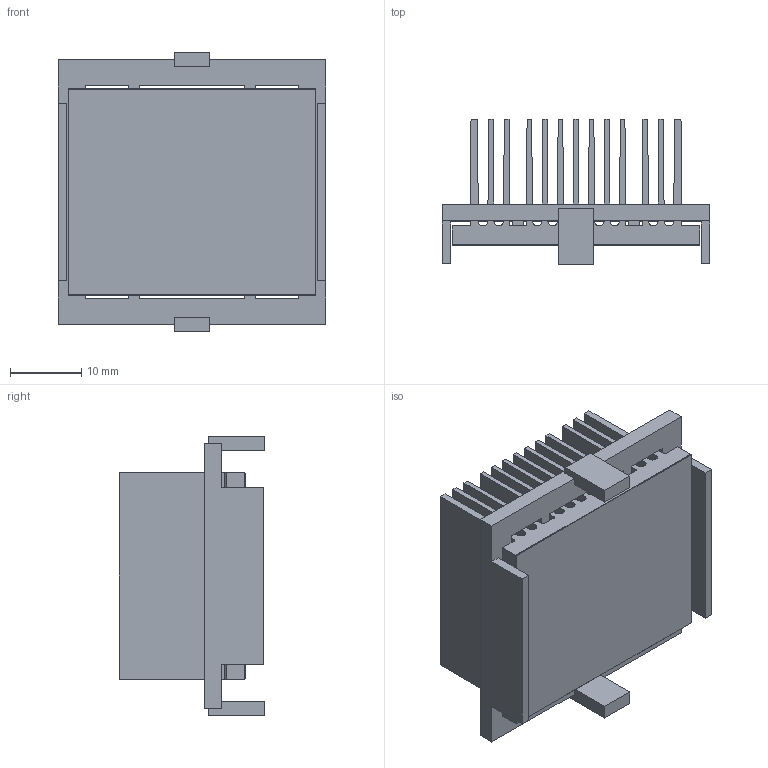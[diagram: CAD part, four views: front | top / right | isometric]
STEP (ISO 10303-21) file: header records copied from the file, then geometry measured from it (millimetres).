
FILE_DESCRIPTION (( 'STEP AP214' ), '1' );
FILE_NAME ('INH35001-18-2.6K29.STEP', '2023-02-17T22:47:39', ( '' ), ( '' ), 'SwSTEP 2.0', 'SolidWorks 2020', '' );
FILE_SCHEMA (( 'AUTOMOTIVE_DESIGN' ));
Length unit declared in the file: millimetre
Products named in the file (1): INH35001-18-2.6K29
Bounding box: 37.7 x 20.4 x 39.2 mm (x, y, z)
Volume: 9085.6 mm3; surface area: 18407.8 mm2
Topology: 3 solids, 3 shells, 144 faces, 414 edges, 276 vertices
Faces by surface type: plane 118, cylinder 26
Entity records: 6310 total; most frequent: CARTESIAN_POINT 835, ORIENTED_EDGE 828, DIRECTION 756, EDGE_CURVE 414, VECTOR 362, LINE 362, VERTEX_POINT 276, AXIS2_PLACEMENT_3D 197
